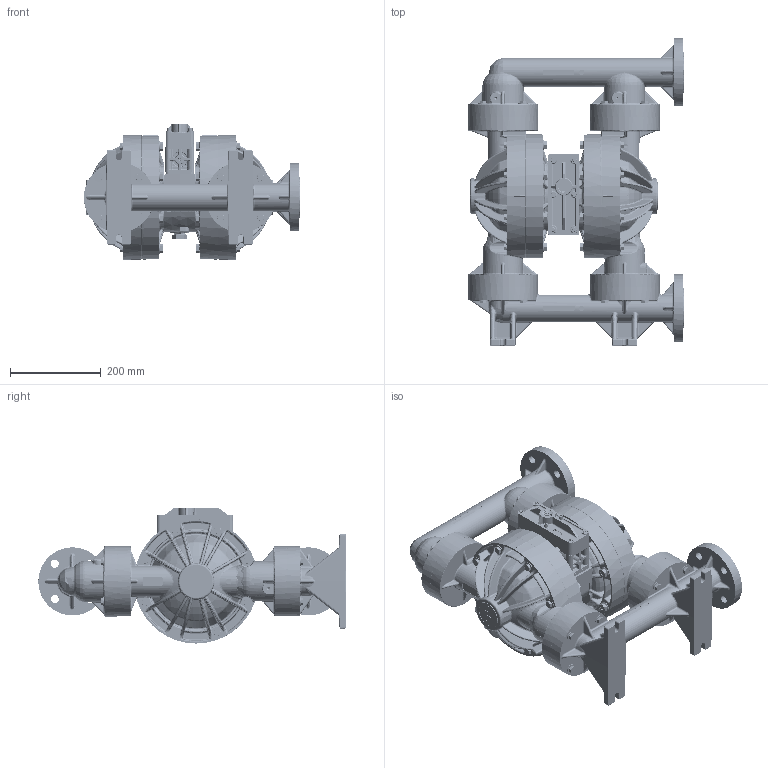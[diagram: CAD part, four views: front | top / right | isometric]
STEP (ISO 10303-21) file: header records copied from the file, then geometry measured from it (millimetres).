
FILE_DESCRIPTION (( 'STEP AP214' ), '1' );
FILE_NAME ('P400_Poly_DIN__TOP_Solidfilled_1.STEP', '2024-11-13T06:31:46', ( '' ), ( '' ), 'SwSTEP 2.0', 'SolidWorks 2022', '' );
FILE_SCHEMA (( 'AUTOMOTIVE_DESIGN' ));
Length unit declared in the file: inch
Products named in the file (1): P400_Poly_DIN__TOP_Solidfilled_1
Bounding box: 476.35 x 676.55 x 299.42 mm (x, y, z)
Volume: 22736218.8 mm3; surface area: 1539613.1 mm2
Topology: 1 solids, 33 shells, 9365 faces, 23760 edges, 14337 vertices
Faces by surface type: bspline 3794, plane 3157, cylinder 1416, cone 979, torus 19
Entity records: 594479 total; most frequent: CARTESIAN_POINT 409550, ORIENTED_EDGE 46506, DIRECTION 27410, EDGE_CURVE 23253, VERTEX_POINT 14337, AXIS2_PLACEMENT_3D 9978, EDGE_LOOP 9858, FACE_OUTER_BOUND 9365
